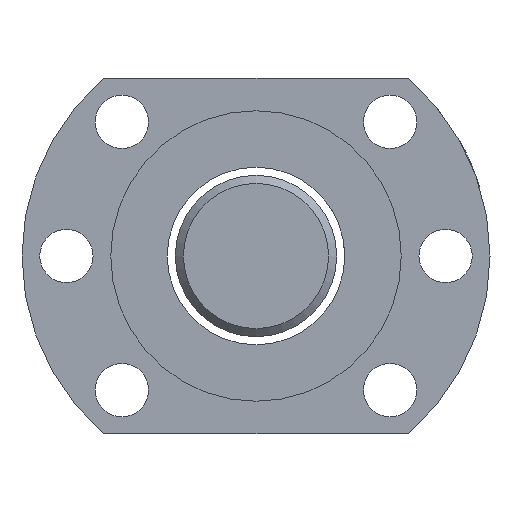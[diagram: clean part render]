
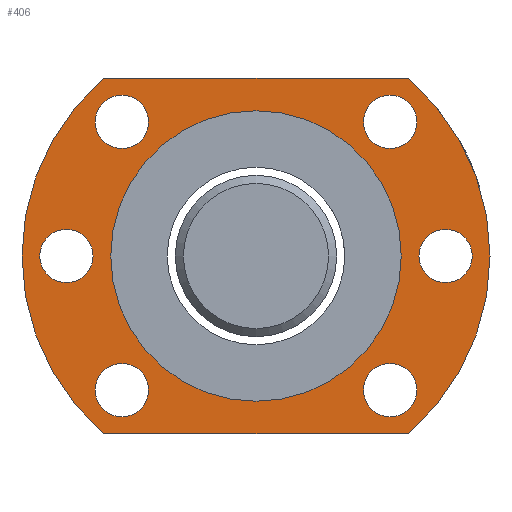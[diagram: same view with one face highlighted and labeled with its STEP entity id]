
A CAD part, left-side view. The second image highlights one B-rep face of the part: STEP entity #406.
In plain terms, the highlighted planar face has unit normal (-1, 0, 0).
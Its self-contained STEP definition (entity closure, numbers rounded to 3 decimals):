
#4 = ORIENTED_EDGE ( 'NONE', *, *, #2308, .T. ) ;
#13 = VECTOR ( 'NONE', #2025, 1000. ) ;
#25 = FACE_BOUND ( 'NONE', #727, .T. ) ;
#174 = DIRECTION ( 'NONE',  ( 0., -1., 0. ) ) ;
#195 = DIRECTION ( 'NONE',  ( 0., 0., 1. ) ) ;
#242 = LINE ( 'NONE', #870, #13 ) ;
#256 = EDGE_LOOP ( 'NONE', ( #2192 ) ) ;
#271 = VERTEX_POINT ( 'NONE', #1084 ) ;
#282 = EDGE_CURVE ( 'NONE', #1364, #643, #1490, .T. ) ;
#311 = ORIENTED_EDGE ( 'NONE', *, *, #2379, .T. ) ;
#362 = DIRECTION ( 'NONE',  ( 1., 0., 0. ) ) ;
#406 = ADVANCED_FACE ( 'NONE', ( #1227, #830, #1404, #1852, #2208, #1017, #25, #1415 ), #426, .T. ) ;
#425 = CARTESIAN_POINT ( 'NONE',  ( -113.948, -54.52, -1.46 ) ) ;
#426 = PLANE ( 'NONE',  #1370 ) ;
#467 = CARTESIAN_POINT ( 'NONE',  ( -113.948, -14.403, -18.077 ) ) ;
#468 = CARTESIAN_POINT ( 'NONE',  ( -113.948, -14.403, -21.377 ) ) ;
#475 = AXIS2_PLACEMENT_3D ( 'NONE', #1195, #961, #2001 ) ;
#496 = CARTESIAN_POINT ( 'NONE',  ( -113.948, -19.009, 0.623 ) ) ;
#525 = CARTESIAN_POINT ( 'NONE',  ( -113.948, -56.798, -43.377 ) ) ;
#537 = LINE ( 'NONE', #1144, #1145 ) ;
#563 = DIRECTION ( 'NONE',  ( 0., 0., 1. ) ) ;
#589 = ORIENTED_EDGE ( 'NONE', *, *, #1921, .T. ) ;
#596 = CIRCLE ( 'NONE', #1783, 3.3 ) ;
#643 = VERTEX_POINT ( 'NONE', #889 ) ;
#673 = EDGE_CURVE ( 'NONE', #750, #2165, #769, .T. ) ;
#675 = VERTEX_POINT ( 'NONE', #1450 ) ;
#684 = AXIS2_PLACEMENT_3D ( 'NONE', #1937, #946, #1965 ) ;
#727 = EDGE_LOOP ( 'NONE', ( #978 ) ) ;
#747 = DIRECTION ( 'NONE',  ( 0., 0., 1. ) ) ;
#750 = VERTEX_POINT ( 'NONE', #496 ) ;
#769 = CIRCLE ( 'NONE', #2242, 29. ) ;
#827 = ORIENTED_EDGE ( 'NONE', *, *, #1343, .F. ) ;
#830 = FACE_BOUND ( 'NONE', #2321, .T. ) ;
#843 = CARTESIAN_POINT ( 'NONE',  ( -113.948, -37.903, -39.377 ) ) ;
#870 = CARTESIAN_POINT ( 'NONE',  ( -113.948, -56.798, 0.623 ) ) ;
#889 = CARTESIAN_POINT ( 'NONE',  ( -113.948, -56.798, 0.623 ) ) ;
#946 = DIRECTION ( 'NONE',  ( -1., 0., 0. ) ) ;
#952 = EDGE_CURVE ( 'NONE', #2482, #2482, #2163, .T. ) ;
#961 = DIRECTION ( 'NONE',  ( -1., 0., 0. ) ) ;
#978 = ORIENTED_EDGE ( 'NONE', *, *, #2550, .T. ) ;
#1017 = FACE_BOUND ( 'NONE', #1210, .T. ) ;
#1018 = AXIS2_PLACEMENT_3D ( 'NONE', #1567, #362, #747 ) ;
#1056 = DIRECTION ( 'NONE',  ( -1., 0., 0. ) ) ;
#1084 = CARTESIAN_POINT ( 'NONE',  ( -113.948, -21.286, -34.694 ) ) ;
#1099 = CARTESIAN_POINT ( 'NONE',  ( -113.948, -37.903, -21.377 ) ) ;
#1144 = CARTESIAN_POINT ( 'NONE',  ( -113.948, -19.009, -43.377 ) ) ;
#1145 = VECTOR ( 'NONE', #174, 1000. ) ;
#1168 = DIRECTION ( 'NONE',  ( -1., 0., 0. ) ) ;
#1176 = EDGE_LOOP ( 'NONE', ( #827 ) ) ;
#1193 = AXIS2_PLACEMENT_3D ( 'NONE', #2199, #1168, #1798 ) ;
#1195 = CARTESIAN_POINT ( 'NONE',  ( -113.948, -37.903, -21.377 ) ) ;
#1210 = EDGE_LOOP ( 'NONE', ( #2388 ) ) ;
#1223 = ORIENTED_EDGE ( 'NONE', *, *, #2267, .F. ) ;
#1226 = VERTEX_POINT ( 'NONE', #425 ) ;
#1227 = FACE_BOUND ( 'NONE', #2251, .T. ) ;
#1276 = CIRCLE ( 'NONE', #1018, 3.3 ) ;
#1287 = CARTESIAN_POINT ( 'NONE',  ( -113.948, -54.52, -34.694 ) ) ;
#1343 = EDGE_CURVE ( 'NONE', #675, #675, #1568, .T. ) ;
#1361 = CIRCLE ( 'NONE', #475, 18. ) ;
#1364 = VERTEX_POINT ( 'NONE', #525 ) ;
#1370 = AXIS2_PLACEMENT_3D ( 'NONE', #1616, #1804, #2045 ) ;
#1401 = AXIS2_PLACEMENT_3D ( 'NONE', #2184, #1759, #563 ) ;
#1404 = FACE_OUTER_BOUND ( 'NONE', #2575, .T. ) ;
#1415 = FACE_BOUND ( 'NONE', #256, .T. ) ;
#1450 = CARTESIAN_POINT ( 'NONE',  ( -113.948, -21.286, -1.46 ) ) ;
#1490 = CIRCLE ( 'NONE', #1193, 29. ) ;
#1493 = CARTESIAN_POINT ( 'NONE',  ( -113.948, -61.403, -18.077 ) ) ;
#1533 = EDGE_CURVE ( 'NONE', #271, #271, #2546, .T. ) ;
#1567 = CARTESIAN_POINT ( 'NONE',  ( -113.948, -54.52, -4.76 ) ) ;
#1568 = CIRCLE ( 'NONE', #684, 3.3 ) ;
#1589 = CARTESIAN_POINT ( 'NONE',  ( -113.948, -54.52, -37.994 ) ) ;
#1616 = CARTESIAN_POINT ( 'NONE',  ( -113.948, -37.903, -21.377 ) ) ;
#1628 = DIRECTION ( 'NONE',  ( 1., 0., 0. ) ) ;
#1669 = VERTEX_POINT ( 'NONE', #1287 ) ;
#1670 = DIRECTION ( 'NONE',  ( 0., 0., 1. ) ) ;
#1709 = AXIS2_PLACEMENT_3D ( 'NONE', #468, #1056, #1670 ) ;
#1759 = DIRECTION ( 'NONE',  ( 1., 0., 0. ) ) ;
#1764 = ORIENTED_EDGE ( 'NONE', *, *, #673, .T. ) ;
#1777 = DIRECTION ( 'NONE',  ( 0., 0., 1. ) ) ;
#1783 = AXIS2_PLACEMENT_3D ( 'NONE', #1589, #1628, #1777 ) ;
#1798 = DIRECTION ( 'NONE',  ( 0., 0., -1. ) ) ;
#1804 = DIRECTION ( 'NONE',  ( -1., 0., 0. ) ) ;
#1814 = CARTESIAN_POINT ( 'NONE',  ( -113.948, -21.286, -37.994 ) ) ;
#1824 = ORIENTED_EDGE ( 'NONE', *, *, #282, .T. ) ;
#1852 = FACE_BOUND ( 'NONE', #2215, .T. ) ;
#1893 = VERTEX_POINT ( 'NONE', #843 ) ;
#1905 = DIRECTION ( 'NONE',  ( 0., 0., -1. ) ) ;
#1921 = EDGE_CURVE ( 'NONE', #643, #750, #242, .T. ) ;
#1937 = CARTESIAN_POINT ( 'NONE',  ( -113.948, -21.286, -4.76 ) ) ;
#1965 = DIRECTION ( 'NONE',  ( 0., 0., 1. ) ) ;
#1989 = CARTESIAN_POINT ( 'NONE',  ( -113.948, -19.009, -43.377 ) ) ;
#2001 = DIRECTION ( 'NONE',  ( 0., 0., -1. ) ) ;
#2025 = DIRECTION ( 'NONE',  ( 0., 1., 0. ) ) ;
#2045 = DIRECTION ( 'NONE',  ( 0., 0., 1. ) ) ;
#2157 = AXIS2_PLACEMENT_3D ( 'NONE', #1814, #2217, #195 ) ;
#2163 = CIRCLE ( 'NONE', #1709, 3.3 ) ;
#2165 = VERTEX_POINT ( 'NONE', #1989 ) ;
#2184 = CARTESIAN_POINT ( 'NONE',  ( -113.948, -61.403, -21.377 ) ) ;
#2187 = EDGE_CURVE ( 'NONE', #1226, #1226, #1276, .T. ) ;
#2192 = ORIENTED_EDGE ( 'NONE', *, *, #2187, .T. ) ;
#2199 = CARTESIAN_POINT ( 'NONE',  ( -113.948, -37.903, -21.377 ) ) ;
#2208 = FACE_BOUND ( 'NONE', #1176, .T. ) ;
#2215 = EDGE_LOOP ( 'NONE', ( #2464 ) ) ;
#2217 = DIRECTION ( 'NONE',  ( -1., 0., 0. ) ) ;
#2242 = AXIS2_PLACEMENT_3D ( 'NONE', #1099, #2497, #1905 ) ;
#2251 = EDGE_LOOP ( 'NONE', ( #311 ) ) ;
#2267 = EDGE_CURVE ( 'NONE', #1893, #1893, #1361, .T. ) ;
#2308 = EDGE_CURVE ( 'NONE', #2165, #1364, #537, .T. ) ;
#2321 = EDGE_LOOP ( 'NONE', ( #1223 ) ) ;
#2379 = EDGE_CURVE ( 'NONE', #2453, #2453, #2582, .T. ) ;
#2388 = ORIENTED_EDGE ( 'NONE', *, *, #1533, .F. ) ;
#2453 = VERTEX_POINT ( 'NONE', #1493 ) ;
#2464 = ORIENTED_EDGE ( 'NONE', *, *, #952, .F. ) ;
#2482 = VERTEX_POINT ( 'NONE', #467 ) ;
#2497 = DIRECTION ( 'NONE',  ( -1., 0., 0. ) ) ;
#2546 = CIRCLE ( 'NONE', #2157, 3.3 ) ;
#2550 = EDGE_CURVE ( 'NONE', #1669, #1669, #596, .T. ) ;
#2575 = EDGE_LOOP ( 'NONE', ( #1764, #4, #1824, #589 ) ) ;
#2582 = CIRCLE ( 'NONE', #1401, 3.3 ) ;
